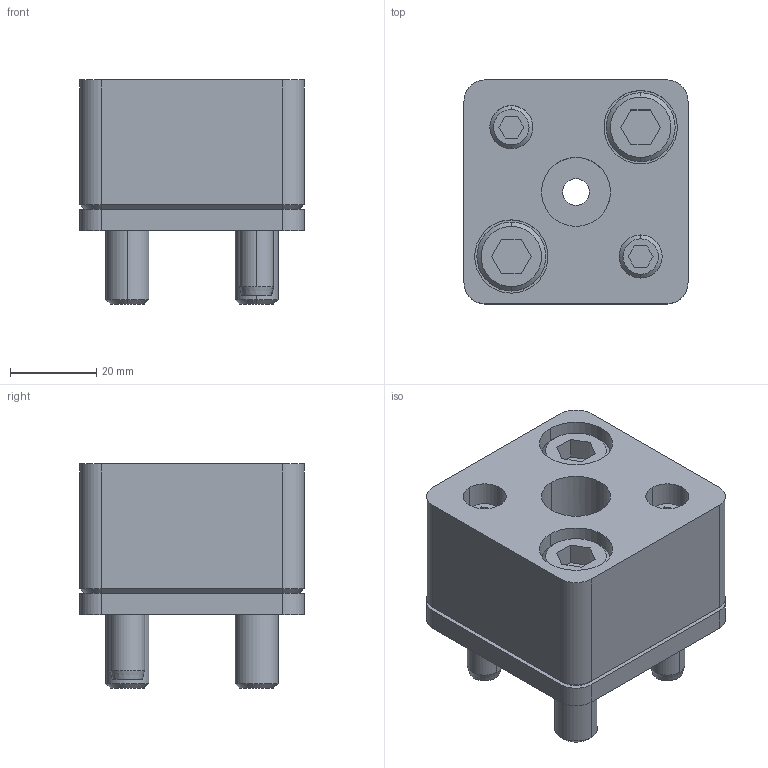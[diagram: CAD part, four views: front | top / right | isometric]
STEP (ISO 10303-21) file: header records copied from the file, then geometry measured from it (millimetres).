
FILE_DESCRIPTION(/* description */ (''),/* implementation_level */ '2;1');
FILE_NAME(/* name */ '3d_hsr-fp16_04201_r00.stp',/* time_stamp */ '2011-01-10T14:14:34+09:00',/* author */ ('MISUMI'),/* organization */ (''),/* preprocessor_version */ 'ST-DEVELOPER v11',/* originating_system */ 'UGS - NX 5.0',/* authorisation */ '');
FILE_SCHEMA (('CONFIG_CONTROL_DESIGN'));
Length unit declared in the file: millimetre
Products named in the file (1): 3d_hsr-fp16_04201_r00
Bounding box: 52 x 52 x 52 mm (x, y, z)
Volume: 85981.2 mm3; surface area: 29865.8 mm2
Topology: 8 solids, 8 shells, 167 faces, 380 edges, 243 vertices
Faces by surface type: plane 72, cylinder 65, cone 30
Entity records: 4856 total; most frequent: DIRECTION 866, CARTESIAN_POINT 850, ORIENTED_EDGE 760, EDGE_CURVE 380, AXIS2_PLACEMENT_3D 329, VERTEX_POINT 243, LINE 208, VECTOR 208
